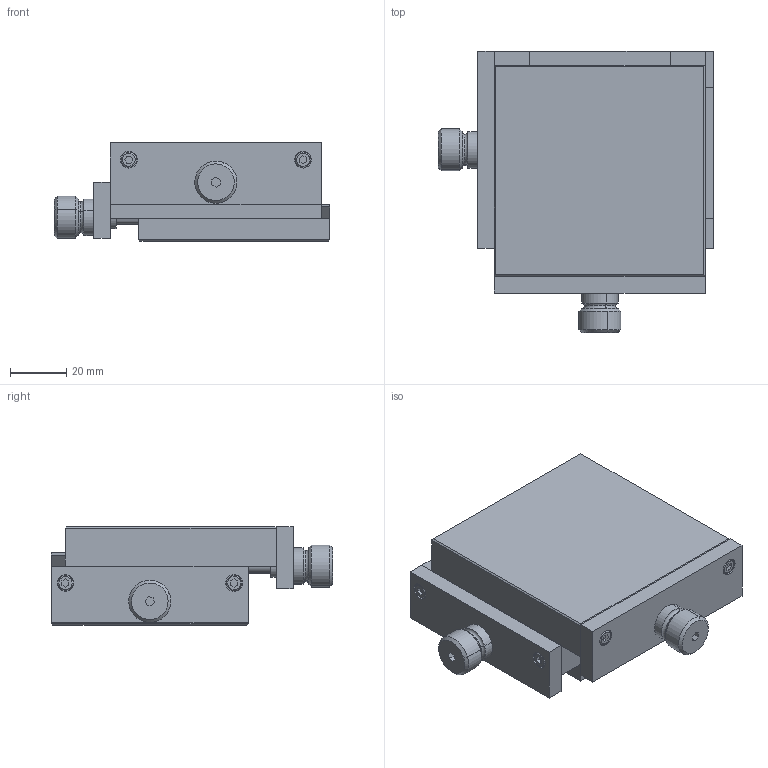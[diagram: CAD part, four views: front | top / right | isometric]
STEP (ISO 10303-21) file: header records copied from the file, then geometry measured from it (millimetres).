
FILE_DESCRIPTION(('STEP AP214'),'1');
FILE_NAME('tmp0.stp','2020-10-01T13:19:36',(' '),(' '),'Spatial InterOp 3D',' ',' ');
FILE_SCHEMA(('automotive_design'));
Length unit declared in the file: millimetre
Products named in the file (13): B75A_StepAP203|NONE#402.803.00;NONE; B75A_StepAP203|NONE#402.805.00;NONE; B75A_StepAP203|NONE#402.795.00;NONE; B75A_StepAP203|NONE#DIN_912;NONE; B75A_StepAP203|NONE#402.807.00;NONE; B75A_StepAP203|NONE#402.794.00;NONE; B75A_StepAP203|NONE#402.798.00;NONE; B75A_StepAP203|NONE#402.799.00;NONE
Bounding box: 98 x 100 x 35 mm (x, y, z)
Volume: 199414.9 mm3; surface area: 66146 mm2
Topology: 13 solids, 13 shells, 320 faces, 752 edges, 472 vertices
Faces by surface type: plane 152, cylinder 116, cone 36, torus 16
Entity records: 12505 total; most frequent: CARTESIAN_POINT 2153, DIRECTION 1618, ORIENTED_EDGE 1472, EDGE_CURVE 736, AXIS2_PLACEMENT_3D 585, VERTEX_POINT 472, LINE 448, VECTOR 448
